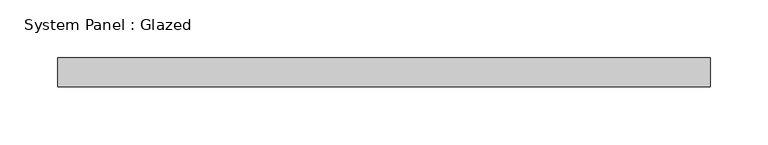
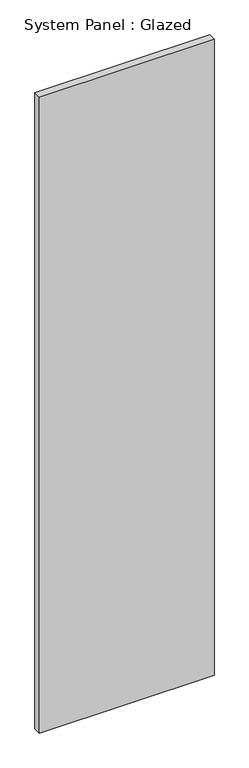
"""IFC4 building model written with IfcOpenShell, lengths in millimetres: plate geometry, System Panel : Glazed."""

from ifc_helpers import new_model, si_unit, origin, origin_with_axes, place, context, project, spatial, polyline, outline, extrude, source, transform, mapped, element, save


def system_panel_glazed_d0e91aec(model_context):
    return source(origin(), model_context, "Body", "SweptSolid", [
        extrude(outline(polyline([(282.5, 24.5), (-282.5, 24.5), (-282.5, 49.5), (282.5, 49.5), (282.5, 24.5)])), origin_with_axes(), (0.0, 0.0, 1.0), 2175.0),
    ])


if __name__ == "__main__":
    model = new_model("IFC4")
    model_context = context("Model", 3, world=origin())
    ifc_project = project(units=[si_unit("LENGTHUNIT", "METRE", prefix="MILLI")], contexts=[model_context])
    site = spatial("IfcSite", under=ifc_project)
    building = spatial("IfcBuilding", under=site)
    placement = place(None, origin())
    system_panel_glazed_shape = system_panel_glazed_d0e91aec(model_context)
    element("IfcPlate", 1, ObjectType="System Panel : Glazed", at=placement, inside=building, context=model_context, shape_type="MappedRepresentation", body=[
        mapped(system_panel_glazed_shape, transform((0.0, 0.0, 0.0), x_axis=(1.0, 0.0, 0.0), y_axis=(0.0, 1.0, 0.0), z_axis=(0.0, 0.0, 1.0))),
    ])
    save(model, "model.ifc")
